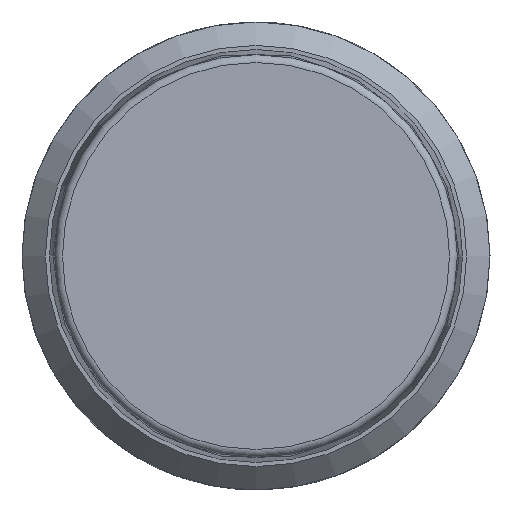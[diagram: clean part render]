
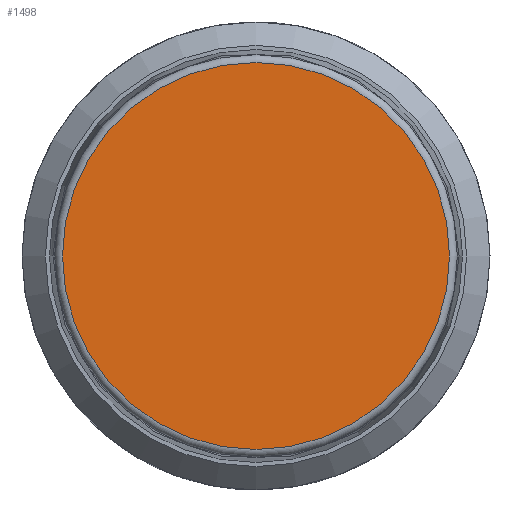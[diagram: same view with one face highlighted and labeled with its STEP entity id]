
A CAD part, left-side view. The second image highlights one B-rep face of the part: STEP entity #1498.
In plain terms, the highlighted planar face has unit normal (-1, 0, 0).
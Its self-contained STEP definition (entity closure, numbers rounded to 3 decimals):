
#54=PLANE('',#1614);
#304=CIRCLE('',#1615,4.962);
#305=CIRCLE('',#1616,4.962);
#408=FACE_OUTER_BOUND('',#492,.T.);
#492=EDGE_LOOP('',(#1033,#1034));
#632=VERTEX_POINT('',#2519);
#633=VERTEX_POINT('',#2520);
#790=EDGE_CURVE('',#632,#633,#304,.T.);
#791=EDGE_CURVE('',#633,#632,#305,.T.);
#1033=ORIENTED_EDGE('',*,*,#790,.F.);
#1034=ORIENTED_EDGE('',*,*,#791,.F.);
#1498=ADVANCED_FACE('',(#408),#54,.T.);
#1614=AXIS2_PLACEMENT_3D('',#2518,#1835,#1836);
#1615=AXIS2_PLACEMENT_3D('',#2521,#1837,#1838);
#1616=AXIS2_PLACEMENT_3D('',#2522,#1839,#1840);
#1835=DIRECTION('center_axis',(-1.,0.,0.));
#1836=DIRECTION('ref_axis',(0.,1.,0.));
#1837=DIRECTION('center_axis',(1.,0.,0.));
#1838=DIRECTION('ref_axis',(0.,-1.,0.));
#1839=DIRECTION('center_axis',(1.,0.,0.));
#1840=DIRECTION('ref_axis',(0.,-1.,0.));
#2518=CARTESIAN_POINT('Origin',(-88.365,-22.712,-4.623));
#2519=CARTESIAN_POINT('',(-88.365,-27.674,-4.623));
#2520=CARTESIAN_POINT('',(-88.365,-17.749,-4.623));
#2521=CARTESIAN_POINT('Origin',(-88.365,-22.712,-4.623));
#2522=CARTESIAN_POINT('Origin',(-88.365,-22.712,-4.623));
